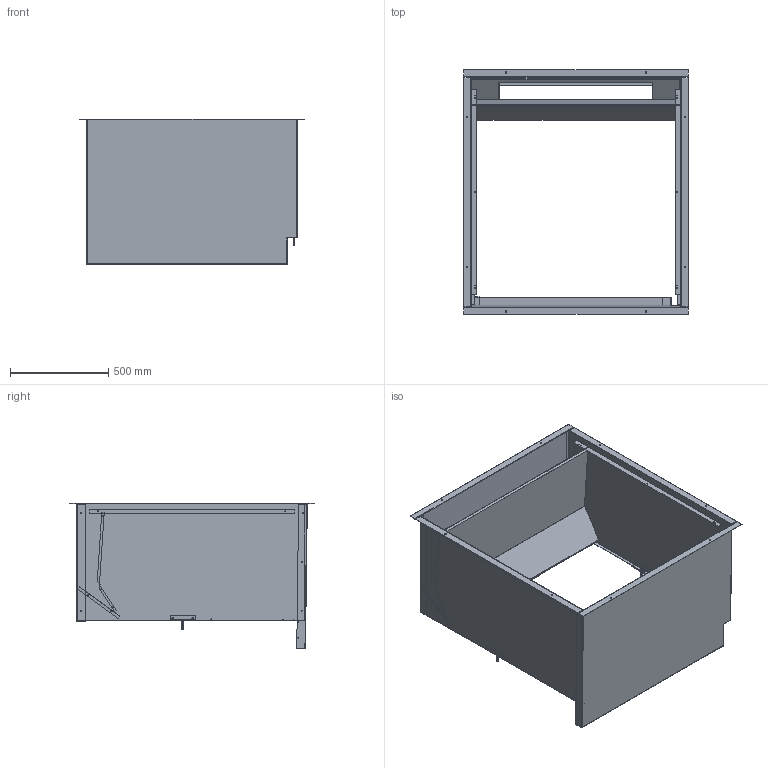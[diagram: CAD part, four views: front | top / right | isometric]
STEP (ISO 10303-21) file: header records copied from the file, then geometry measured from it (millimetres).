
FILE_DESCRIPTION (( 'STEP AP203' ), '1' );
FILE_NAME ('QWS42A-23.STEP', '2014-03-13T18:33:13', ( 'generic' ), ( 'Hewlett-Packard Company' ), 'SwSTEP 2.0', 'SolidWorks 2014', '' );
FILE_SCHEMA (( 'CONFIG_CONTROL_DESIGN' ));
Length unit declared in the file: inch
Products named in the file (10): 110-084; 104-1060; 1012-036; 110-106; QWS42A-23; 110-107; 104-988; 110-085; 120-390; 130-128
Assembly tree (12 placements, depth 2):
  QWS42A-23
    110-106
    110-107
    104-988  x2
    110-085
    120-390
    130-128
    110-084
    104-1060  x2
    1012-036  x2
Bounding box: 1140.39 x 1244.19 x 738.85 mm (x, y, z)
Volume: 5804360.4 mm3; surface area: 8311069.8 mm2
Topology: 12 solids, 12 shells, 945 faces, 2219 edges, 1280 vertices
Faces by surface type: plane 368, cylinder 313, cone 236, bspline 28
Entity records: 24603 total; most frequent: CARTESIAN_POINT 5327, DIRECTION 3857, ORIENTED_EDGE 3672, EDGE_CURVE 1836, AXIS2_PLACEMENT_3D 1393, VERTEX_POINT 1071, LINE 1071, VECTOR 1071
